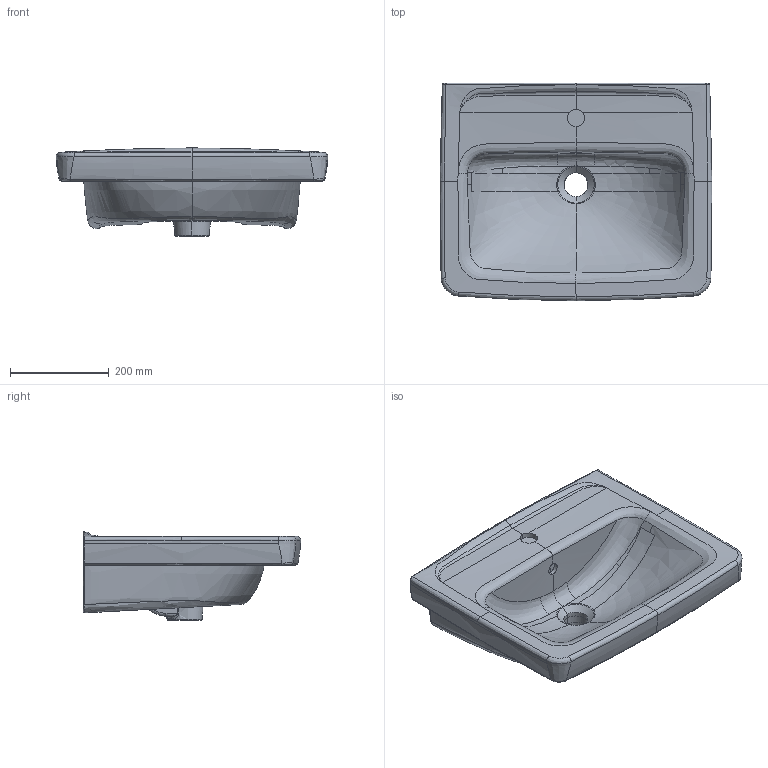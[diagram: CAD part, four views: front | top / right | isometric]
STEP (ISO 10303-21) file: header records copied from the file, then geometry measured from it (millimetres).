
FILE_DESCRIPTION(/* description */ (''),/* implementation_level */ '2;1');
FILE_NAME(/* name */ '4A9255.stp',/* time_stamp */ '2021-05-27T13:09:52+02:00',/* author */ (''),/* organization */ (''),/* preprocessor_version */ 'ST-DEVELOPER v16.7',/* originating_system */ 'SIEMENS PLM Software NX 1863',/* authorisation */ '');
FILE_SCHEMA (('AUTOMOTIVE_DESIGN { 1 0 10303 214 3 1 1 1 }'));
Products named in the file (1): koeb394416B3ripo
Bounding box: 549.67 x 439.98 x 178.34 mm (x, y, z)
Volume: 13549668 mm3; surface area: 778954.8 mm2
Topology: 1 solids, 1 shells, 299 faces, 734 edges, 435 vertices
Faces by surface type: bspline 238, plane 21, cylinder 14, extrusion 12, cone 4, revolution 4, torus 4, sphere 2
Entity records: 52194 total; most frequent: CARTESIAN_POINT 47055, ORIENTED_EDGE 1464, EDGE_CURVE 732, B_SPLINE_CURVE_WITH_KNOTS 542, VERTEX_POINT 435, DIRECTION 434, EDGE_LOOP 301, ADVANCED_FACE 299
